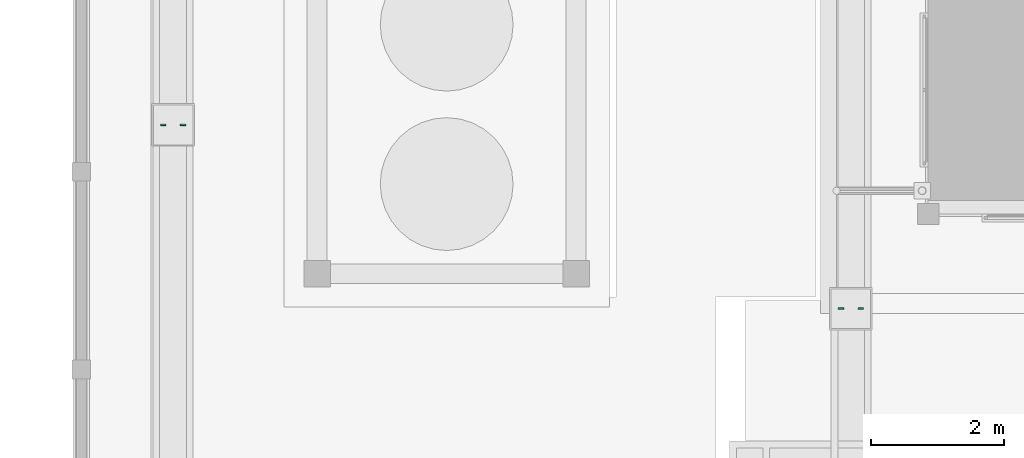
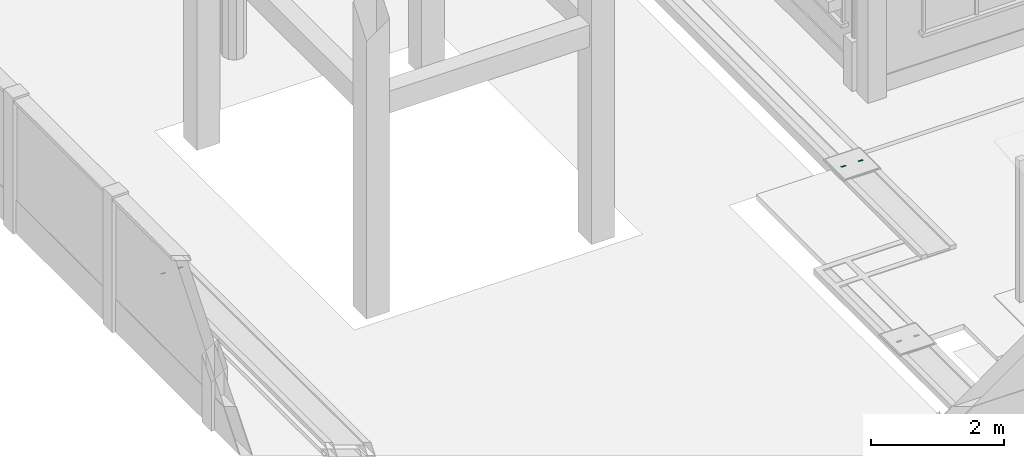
# One storey, part 132 of 177: 4 distribution chamber elements.
"""IFC4 building model written with IfcOpenShell, lengths in metres."""

from ifc_helpers import new_model, si_unit, origin, origin_with_axes, place, context, subcontext, project, spatial, triangles, element, save


model = new_model("IFC4")

# Units and contexts
model_context = context("Model", 3, precision=1e-05, world=origin_with_axes())
body_context = subcontext(model_context, "Body", "Model", "MODEL_VIEW")
ifc_project = project(units=[si_unit("LENGTHUNIT", "METRE"), si_unit("AREAUNIT", "SQUARE_METRE"), si_unit("VOLUMEUNIT", "CUBIC_METRE"), si_unit("PLANEANGLEUNIT", "RADIAN")], contexts=[model_context])

# Site, building, storey
site_placement = place(None, origin_with_axes())
site = spatial("IfcSite", under=ifc_project, at=site_placement, Name="Predio Los Mangos - Morales, San Martín", CompositionType="ELEMENT")
building_placement = place(site_placement, origin())
building = spatial("IfcBuilding", under=site, at=building_placement, Name="Hogar de Refugio Temporal", CompositionType="ELEMENT")
storey_placement = place(building_placement, origin())
storey = spatial("IfcBuildingStorey", under=building, at=storey_placement, Name="NIVEL 1 (NPT +0.00)", CompositionType="ELEMENT", Elevation=0.0)

# Distribution chamber elements
distribution_chamber_element_1_placement = place(storey_placement, origin())
element("IfcDistributionChamberElement", 1, at=distribution_chamber_element_1_placement, inside=storey, Name="tapa_insp_asa", ObjectType="Tapa de inspección", PredefinedType="INSPECTIONCHAMBER", context=body_context, shape_type="Tessellation", body=[
    triangles([(2.243, 27.629, 0.104), (2.323, 27.629, 0.104), (2.323, 27.653, 0.104), (2.243, 27.653, 0.104), (2.243, 27.629, 0.108), (2.323, 27.629, 0.108), (2.323, 27.653, 0.108), (2.243, 27.653, 0.108)], [[1, 4, 3], [1, 3, 2], [5, 6, 7], [5, 7, 8], [1, 2, 6], [1, 6, 5], [2, 3, 7], [2, 7, 6], [3, 4, 8], [3, 8, 7], [4, 1, 5], [4, 5, 8]]),
])
distribution_chamber_element_2_placement = place(storey_placement, origin())
element("IfcDistributionChamberElement", 2, at=distribution_chamber_element_2_placement, inside=storey, Name="tapa_insp_asa", ObjectType="Tapa de inspección", PredefinedType="INSPECTIONCHAMBER", context=body_context, shape_type="Tessellation", body=[
    triangles([(2.543, 27.629, 0.104), (2.623, 27.629, 0.104), (2.623, 27.653, 0.104), (2.543, 27.653, 0.104), (2.543, 27.629, 0.108), (2.623, 27.629, 0.108), (2.623, 27.653, 0.108), (2.543, 27.653, 0.108)], [[1, 4, 3], [1, 3, 2], [5, 6, 7], [5, 7, 8], [1, 2, 6], [1, 6, 5], [2, 3, 7], [2, 7, 6], [3, 4, 8], [3, 8, 7], [4, 1, 5], [4, 5, 8]]),
])
distribution_chamber_element_3_placement = place(storey_placement, origin())
element("IfcDistributionChamberElement", 3, at=distribution_chamber_element_3_placement, inside=storey, Name="tapa_insp_asa", ObjectType="Tapa de inspección", PredefinedType="INSPECTIONCHAMBER", context=body_context, shape_type="Tessellation", body=[
    triangles([(12.445, 24.862, 0.17), (12.525, 24.862, 0.17), (12.525, 24.886, 0.17), (12.445, 24.886, 0.17), (12.445, 24.862, 0.174), (12.525, 24.862, 0.174), (12.525, 24.886, 0.174), (12.445, 24.886, 0.174)], [[1, 4, 3], [1, 3, 2], [5, 6, 7], [5, 7, 8], [1, 2, 6], [1, 6, 5], [2, 3, 7], [2, 7, 6], [3, 4, 8], [3, 8, 7], [4, 1, 5], [4, 5, 8]]),
])
distribution_chamber_element_4_placement = place(storey_placement, origin())
element("IfcDistributionChamberElement", 4, at=distribution_chamber_element_4_placement, inside=storey, Name="tapa_insp_asa", ObjectType="Tapa de inspección", PredefinedType="INSPECTIONCHAMBER", context=body_context, shape_type="Tessellation", body=[
    triangles([(12.745, 24.862, 0.17), (12.825, 24.862, 0.17), (12.825, 24.886, 0.17), (12.745, 24.886, 0.17), (12.745, 24.862, 0.174), (12.825, 24.862, 0.174), (12.825, 24.886, 0.174), (12.745, 24.886, 0.174)], [[1, 4, 3], [1, 3, 2], [5, 6, 7], [5, 7, 8], [1, 2, 6], [1, 6, 5], [2, 3, 7], [2, 7, 6], [3, 4, 8], [3, 8, 7], [4, 1, 5], [4, 5, 8]]),
])

save(model, "model.ifc")
